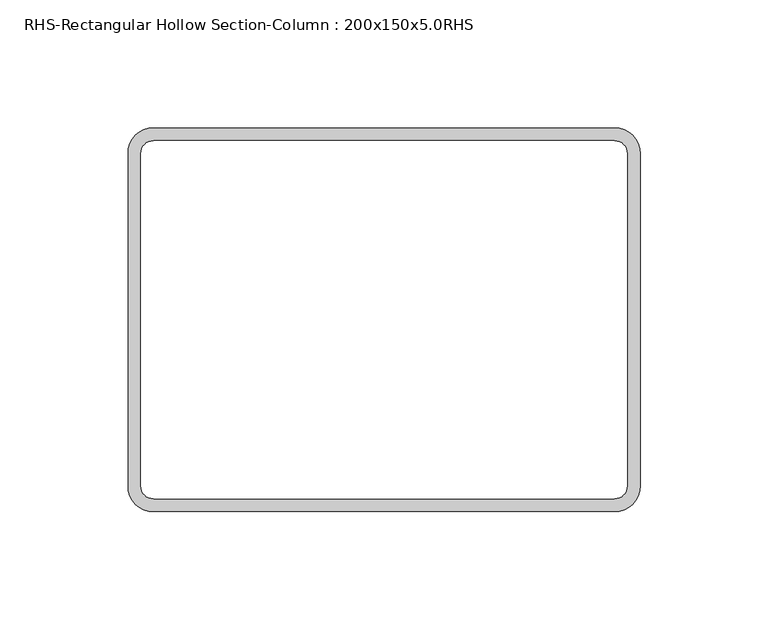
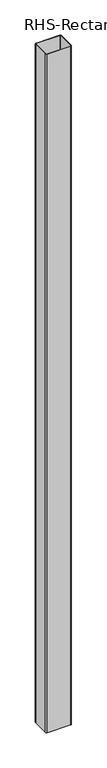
"""IFC4 building model written with IfcOpenShell, lengths in millimetres: column geometry, RHS-Rectangular Hollow Section-Column : 200x150x5.0RHS."""

from ifc_helpers import new_model, si_unit, point, frame, frame_2d, origin, place, context, project, spatial, polyline, circle_curve, trimmed, segment, composite_curve, outline, extrude, source, transform, mapped, element, save


def rhs_rectangular_hollow_section_column_200x150x5_0rhs_a2d85ab5(model_context):
    return source(origin(), model_context, "Body", "SweptSolid", [
        extrude(outline(composite_curve([segment(trimmed(circle_curve(frame_2d((90.0, 65.0)), 10.0), [point((90.0, 75.0))], [point((100.0, 65.0))], False, "CARTESIAN"), True, "CONTINUOUS"), segment(polyline([(100.0, 65.0), (100.0, -65.0)]), True, "CONTINUOUS"), segment(trimmed(circle_curve(frame_2d((90.0, -65.0)), 10.0), [point((100.0, -65.0))], [point((90.0, -75.0))], False, "CARTESIAN"), True, "CONTINUOUS"), segment(polyline([(90.0, -75.0), (-90.0, -75.0)]), True, "CONTINUOUS"), segment(trimmed(circle_curve(frame_2d((-90.0, -65.0)), 10.0), [point((-90.0, -75.0))], [point((-100.0, -65.0))], False, "CARTESIAN"), True, "CONTINUOUS"), segment(polyline([(-100.0, -65.0), (-100.0, 65.0)]), True, "CONTINUOUS"), segment(trimmed(circle_curve(frame_2d((-90.0, 65.0)), 10.0), [point((-100.0, 65.0))], [point((-90.0, 75.0))], False, "CARTESIAN"), True, "CONTINUOUS"), segment(polyline([(-90.0, 75.0), (90.0, 75.0)]), True, "CONTINUOUS")], self_intersect=False), holes=[composite_curve([segment(polyline([(90.0, 70.0), (-90.0, 70.0)]), True, "CONTINUOUS"), segment(trimmed(circle_curve(frame_2d((-90.0, 65.0)), 5.0), [point((-90.0, 70.0))], [point((-95.0, 65.0))], True, "CARTESIAN"), True, "CONTINUOUS"), segment(polyline([(-95.0, 65.0), (-95.0, -65.0)]), True, "CONTINUOUS"), segment(trimmed(circle_curve(frame_2d((-90.0, -65.0)), 5.0), [point((-95.0, -65.0))], [point((-90.0, -70.0))], True, "CARTESIAN"), True, "CONTINUOUS"), segment(polyline([(-90.0, -70.0), (90.0, -70.0)]), True, "CONTINUOUS"), segment(trimmed(circle_curve(frame_2d((90.0, -65.0)), 5.0), [point((90.0, -70.0))], [point((95.0, -65.0))], True, "CARTESIAN"), True, "CONTINUOUS"), segment(polyline([(95.0, -65.0), (95.0, 65.0)]), True, "CONTINUOUS"), segment(trimmed(circle_curve(frame_2d((90.0, 65.0)), 5.0), [point((95.0, 65.0))], [point((90.0, 70.0))], True, "CARTESIAN"), True, "CONTINUOUS")], self_intersect=False)]), frame((0.0, 0.0, 18360.0), z_axis=(0.0, 0.0, 1.0), x_axis=(1.0, 0.0, 0.0)), (0.0, 0.0, 1.0), 5550.0),
    ])


if __name__ == "__main__":
    model = new_model("IFC4")
    model_context = context("Model", 3, world=origin())
    ifc_project = project(units=[si_unit("LENGTHUNIT", "METRE", prefix="MILLI")], contexts=[model_context])
    site = spatial("IfcSite", under=ifc_project)
    building = spatial("IfcBuilding", under=site)
    placement = place(None, origin())
    rhs_rectangular_hollow_section_column_200x150x5_0rhs_shape = rhs_rectangular_hollow_section_column_200x150x5_0rhs_a2d85ab5(model_context)
    element("IfcColumn", 1, ObjectType="RHS-Rectangular Hollow Section-Column : 200x150x5.0RHS", at=placement, inside=building, context=model_context, shape_type="MappedRepresentation", body=[
        mapped(rhs_rectangular_hollow_section_column_200x150x5_0rhs_shape, transform((0.0, 0.0, 0.0), x_axis=(1.0, 0.0, 0.0), y_axis=(0.0, 1.0, 0.0), z_axis=(0.0, 0.0, 1.0))),
    ])
    save(model, "model.ifc")
